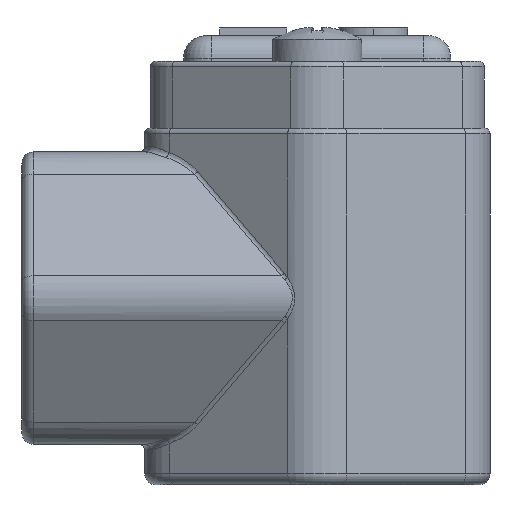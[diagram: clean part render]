
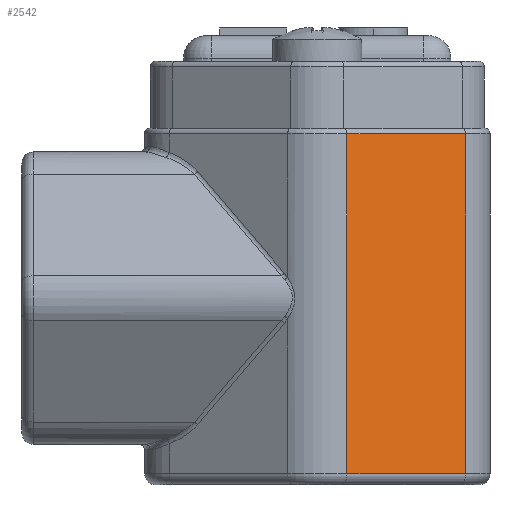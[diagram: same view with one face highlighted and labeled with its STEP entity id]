
A CAD part, left-side view. The second image highlights one B-rep face of the part: STEP entity #2542.
In plain terms, the highlighted planar face has unit normal (-0.828, -0.56, 0).
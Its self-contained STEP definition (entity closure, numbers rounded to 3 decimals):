
#522 = DIRECTION ( 'NONE',  ( 0., 0., 1. ) ) ;
#1101 = DIRECTION ( 'NONE',  ( -0.828, -0.56, 0. ) ) ;
#2295 = EDGE_CURVE ( 'NONE', #4319, #3809, #2512, .T. ) ;
#2438 = VERTEX_POINT ( 'NONE', #10165 ) ;
#2512 = LINE ( 'NONE', #6704, #6928 ) ;
#2542 = ADVANCED_FACE ( 'NONE', ( #8705 ), #5559, .T. ) ;
#2886 = ORIENTED_EDGE ( 'NONE', *, *, #8342, .T. ) ;
#3001 = EDGE_LOOP ( 'NONE', ( #9718, #2886, #3055, #13341 ) ) ;
#3055 = ORIENTED_EDGE ( 'NONE', *, *, #6101, .T. ) ;
#3086 = DIRECTION ( 'NONE',  ( 0., 0., -1. ) ) ;
#3293 = CARTESIAN_POINT ( 'NONE',  ( -68.941, -19.493, -19.533 ) ) ;
#3452 = VECTOR ( 'NONE', #522, 1000. ) ;
#3809 = VERTEX_POINT ( 'NONE', #6188 ) ;
#4319 = VERTEX_POINT ( 'NONE', #8500 ) ;
#4563 = LINE ( 'NONE', #3293, #9176 ) ;
#4666 = VECTOR ( 'NONE', #3086, 1000. ) ;
#5559 = PLANE ( 'NONE',  #11676 ) ;
#6101 = EDGE_CURVE ( 'NONE', #9101, #4319, #6643, .T. ) ;
#6188 = CARTESIAN_POINT ( 'NONE',  ( -79.915, -3.27, 10.967 ) ) ;
#6643 = LINE ( 'NONE', #10866, #3452 ) ;
#6704 = CARTESIAN_POINT ( 'NONE',  ( -68.941, -19.493, 10.967 ) ) ;
#6780 = DIRECTION ( 'NONE',  ( 0., 0., 1. ) ) ;
#6928 = VECTOR ( 'NONE', #14438, 1000. ) ;
#7054 = CARTESIAN_POINT ( 'NONE',  ( -72.718, -13.91, -19.533 ) ) ;
#7512 = LINE ( 'NONE', #7576, #4666 ) ;
#7576 = CARTESIAN_POINT ( 'NONE',  ( -79.915, -3.27, 11.467 ) ) ;
#7855 = CARTESIAN_POINT ( 'NONE',  ( -71.23, -16.108, 11.467 ) ) ;
#8342 = EDGE_CURVE ( 'NONE', #2438, #9101, #4563, .T. ) ;
#8500 = CARTESIAN_POINT ( 'NONE',  ( -72.718, -13.91, 10.967 ) ) ;
#8705 = FACE_OUTER_BOUND ( 'NONE', #3001, .T. ) ;
#9101 = VERTEX_POINT ( 'NONE', #7054 ) ;
#9176 = VECTOR ( 'NONE', #11211, 1000. ) ;
#9243 = EDGE_CURVE ( 'NONE', #3809, #2438, #7512, .T. ) ;
#9718 = ORIENTED_EDGE ( 'NONE', *, *, #9243, .T. ) ;
#10165 = CARTESIAN_POINT ( 'NONE',  ( -79.915, -3.27, -19.533 ) ) ;
#10866 = CARTESIAN_POINT ( 'NONE',  ( -72.718, -13.91, -4.533 ) ) ;
#11211 = DIRECTION ( 'NONE',  ( 0.56, -0.828, 0. ) ) ;
#11676 = AXIS2_PLACEMENT_3D ( 'NONE', #7855, #1101, #6780 ) ;
#13341 = ORIENTED_EDGE ( 'NONE', *, *, #2295, .T. ) ;
#14438 = DIRECTION ( 'NONE',  ( -0.56, 0.828, 0. ) ) ;
